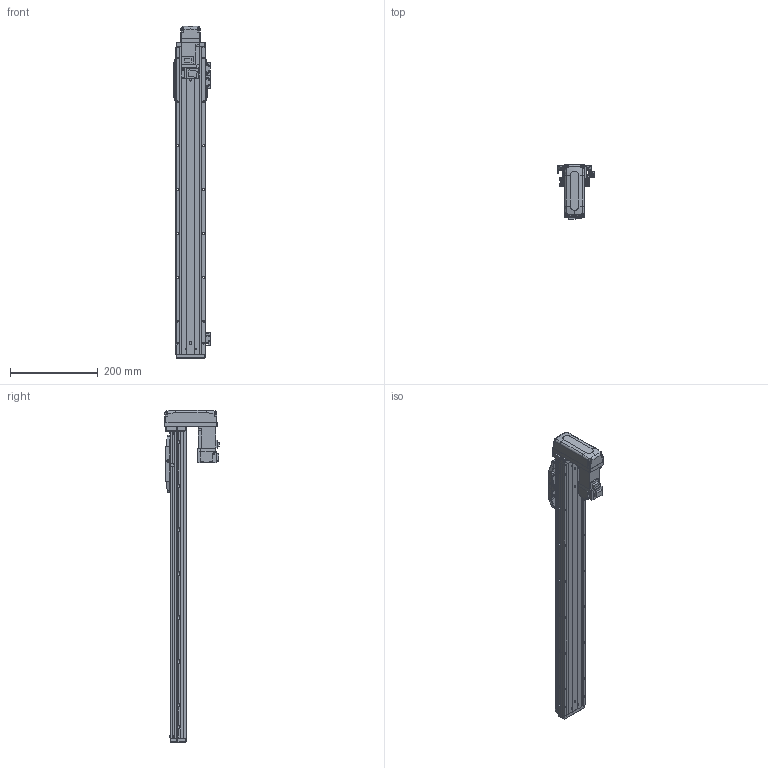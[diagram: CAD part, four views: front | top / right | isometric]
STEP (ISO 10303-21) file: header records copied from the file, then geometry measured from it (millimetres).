
FILE_DESCRIPTION (( 'STEP AP203' ), '1' );
FILE_NAME ('CTHA60-550-BM-M10-C4L.step', '2022-03-19T06:18:12', ( '微软用户' ), ( '微软中国' ), 'SwSTEP 2.0', 'SolidWorks 2020', '' );
FILE_SCHEMA (( 'CONFIG_CONTROL_DESIGN' ));
Length unit declared in the file: millimetre
Products named in the file (18): HG-KR13（三菱）; CTHA60-021; CTHA60-002; CTHA60-001_700; GBT 70.1-M4×16; CTHA60-031; CTHA60-004; GBT77-2000 M3×3; CTHA60-006-1; CTHA60-005; GBT 70.1-M3℅6; CTHA60-033; GB¨uT 70.2-M3¡Á6_M3¡Á6; GBT 70.3-M3℅6; CTHA60-550-BM-M10-C4L; EE_SX911P_R; CTHA60-016; CTHA60-017
Assembly tree (54 placements, depth 2):
  CTHA60-550-BM-M10-C4L
    CTHA60-001_700
    CTHA60-004
    CTHA60-005
    GB¨uT 70.2-M3¡Á6_M3¡Á6  x10
    EE_SX911P_R  x3
    CTHA60-017  x3
    CTHA60-021  x2
    GBT 70.1-M4×16  x10
    GBT77-2000 M3×3  x6
    GBT 70.1-M3℅6  x6
    GBT 70.3-M3℅6  x4
    CTHA60-016  x2
    HG-KR13（三菱）
    CTHA60-002
    CTHA60-031
    CTHA60-006-1
    CTHA60-033
Bounding box: 83.12 x 125.3 x 757 mm (x, y, z)
Volume: 1329709 mm3; surface area: 401709.2 mm2
Topology: 56 solids, 56 shells, 2534 faces, 6093 edges, 3757 vertices
Faces by surface type: plane 1461, cylinder 583, cone 342, torus 92, bspline 32, sphere 24
Entity records: 45657 total; most frequent: CARTESIAN_POINT 8810, DIRECTION 7056, ORIENTED_EDGE 6994, EDGE_CURVE 3497, LINE 2484, VECTOR 2484, AXIS2_PLACEMENT_3D 2286, VERTEX_POINT 2216
